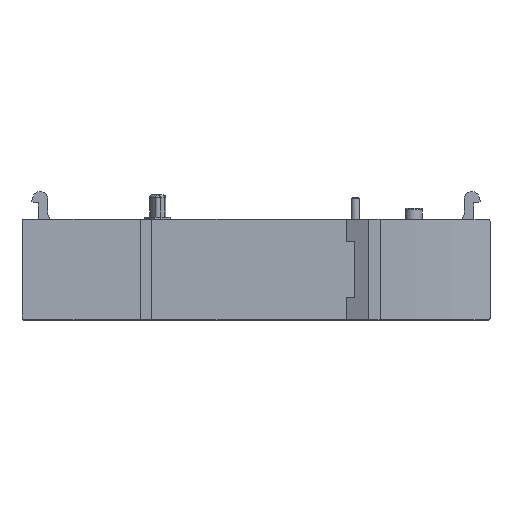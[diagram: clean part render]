
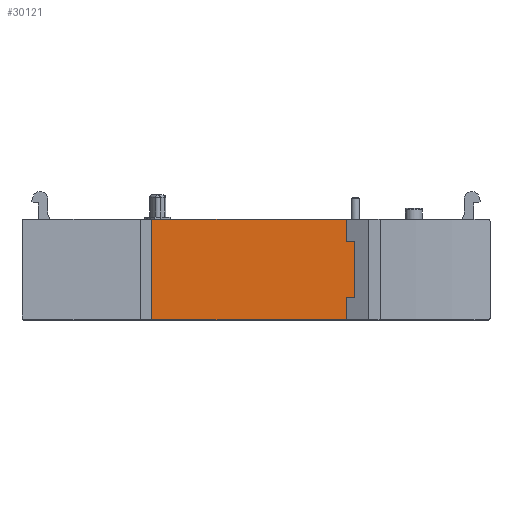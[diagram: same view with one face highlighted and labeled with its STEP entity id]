
A CAD part, top view. The second image highlights one B-rep face of the part: STEP entity #30121.
In plain terms, the highlighted planar face has unit normal (0, 0, 1).
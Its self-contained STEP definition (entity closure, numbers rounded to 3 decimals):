
#1454=DIRECTION('',(-1.,0.,0.));
#1455=VECTOR('',#1454,36.);
#1456=CARTESIAN_POINT('',(17.5,17.8,44.));
#1457=LINE('',#1456,#1455);
#2534=DIRECTION('',(1.,0.,0.));
#2535=VECTOR('',#2534,36.);
#2536=CARTESIAN_POINT('',(-18.5,0.,44.));
#2537=LINE('',#2536,#2535);
#2646=DIRECTION('',(0.,1.,0.));
#2647=VECTOR('',#2646,17.8);
#2648=CARTESIAN_POINT('',(17.5,0.,44.));
#2649=LINE('',#2648,#2647);
#2662=DIRECTION('',(0.,1.,0.));
#2663=VECTOR('',#2662,17.8);
#2664=CARTESIAN_POINT('',(-18.5,0.,44.));
#2665=LINE('',#2664,#2663);
#21486=CARTESIAN_POINT('',(17.5,17.8,44.));
#21487=VERTEX_POINT('',#21486);
#21488=CARTESIAN_POINT('',(-18.5,17.8,44.));
#21489=VERTEX_POINT('',#21488);
#21842=CARTESIAN_POINT('',(-18.5,0.,44.));
#21843=VERTEX_POINT('',#21842);
#21844=CARTESIAN_POINT('',(17.5,0.,44.));
#21845=VERTEX_POINT('',#21844);
#30109=CARTESIAN_POINT('',(-17.5,0.,44.));
#30110=DIRECTION('',(0.,0.,1.));
#30111=DIRECTION('',(1.,0.,0.));
#30112=AXIS2_PLACEMENT_3D('',#30109,#30110,#30111);
#30113=PLANE('',#30112);
#30114=ORIENTED_EDGE('',*,*,#28794,.F.);
#30115=ORIENTED_EDGE('',*,*,#30071,.F.);
#30116=ORIENTED_EDGE('',*,*,#29962,.F.);
#30118=ORIENTED_EDGE('',*,*,#30117,.T.);
#30119=EDGE_LOOP('',(#30114,#30115,#30116,#30118));
#30120=FACE_OUTER_BOUND('',#30119,.F.);
#30121=ADVANCED_FACE('',(#30120),#30113,.T.);
#28794=EDGE_CURVE('',#21487,#21489,#1457,.T.);
#29962=EDGE_CURVE('',#21843,#21845,#2537,.T.);
#30071=EDGE_CURVE('',#21845,#21487,#2649,.T.);
#30117=EDGE_CURVE('',#21843,#21489,#2665,.T.);
